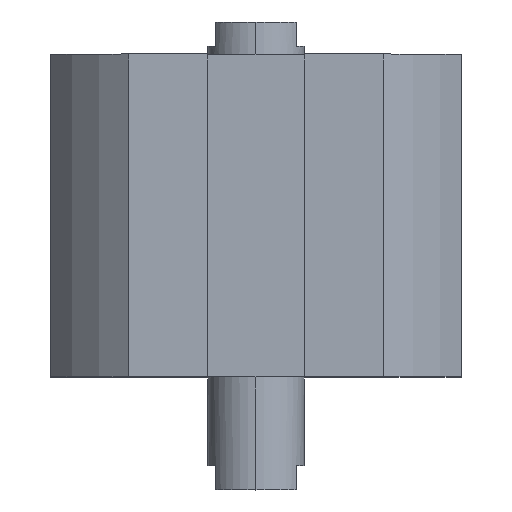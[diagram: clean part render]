
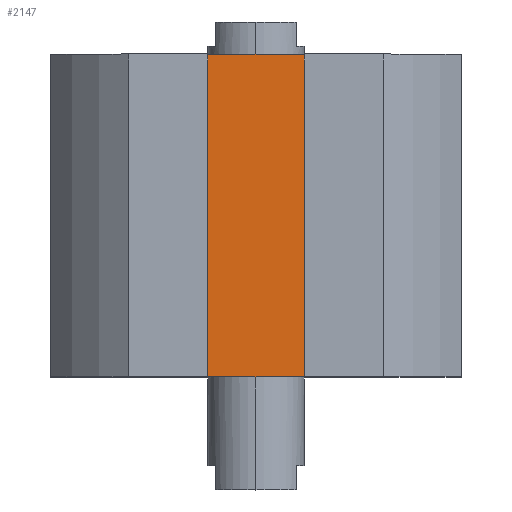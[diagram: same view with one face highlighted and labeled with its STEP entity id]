
A CAD part, top view. The second image highlights one B-rep face of the part: STEP entity #2147.
In plain terms, the highlighted planar face has unit normal (0, 0, 1).
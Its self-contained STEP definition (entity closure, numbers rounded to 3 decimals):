
#7 = CARTESIAN_POINT ( 'NONE',  ( 7.7, -40., 17. ) ) ;
#340 = DIRECTION ( 'NONE',  ( 0., 1., 0. ) ) ;
#562 = VERTEX_POINT ( 'NONE', #944 ) ;
#679 = PLANE ( 'NONE',  #2195 ) ;
#718 = VERTEX_POINT ( 'NONE', #1889 ) ;
#777 = CARTESIAN_POINT ( 'NONE',  ( -7.7, -40., 17. ) ) ;
#944 = CARTESIAN_POINT ( 'NONE',  ( 7.7, 0., 17. ) ) ;
#1082 = CARTESIAN_POINT ( 'NONE',  ( 0., 0., 17. ) ) ;
#1122 = FACE_OUTER_BOUND ( 'NONE', #2667, .T. ) ;
#1184 = DIRECTION ( 'NONE',  ( 1., 0., 0. ) ) ;
#1432 = DIRECTION ( 'NONE',  ( 1., 0., 0. ) ) ;
#1444 = LINE ( 'NONE', #777, #1739 ) ;
#1533 = ORIENTED_EDGE ( 'NONE', *, *, #2560, .T. ) ;
#1618 = CARTESIAN_POINT ( 'NONE',  ( 0., -40., 17. ) ) ;
#1653 = ORIENTED_EDGE ( 'NONE', *, *, #4027, .F. ) ;
#1739 = VECTOR ( 'NONE', #2013, 1000. ) ;
#1801 = VERTEX_POINT ( 'NONE', #2313 ) ;
#1857 = EDGE_CURVE ( 'NONE', #2433, #562, #2527, .T. ) ;
#1889 = CARTESIAN_POINT ( 'NONE',  ( 7.7, -40., 17. ) ) ;
#2013 = DIRECTION ( 'NONE',  ( 0., 1., 0. ) ) ;
#2147 = ADVANCED_FACE ( 'NONE', ( #1122 ), #679, .T. ) ;
#2165 = ORIENTED_EDGE ( 'NONE', *, *, #1857, .F. ) ;
#2186 = DIRECTION ( 'NONE',  ( 0., 0., 1. ) ) ;
#2195 = AXIS2_PLACEMENT_3D ( 'NONE', #1618, #2186, #3129 ) ;
#2234 = VECTOR ( 'NONE', #1184, 1000. ) ;
#2313 = CARTESIAN_POINT ( 'NONE',  ( -7.7, -40., 17. ) ) ;
#2318 = VECTOR ( 'NONE', #340, 1000. ) ;
#2433 = VERTEX_POINT ( 'NONE', #2935 ) ;
#2527 = LINE ( 'NONE', #1082, #3153 ) ;
#2560 = EDGE_CURVE ( 'NONE', #1801, #718, #3049, .T. ) ;
#2667 = EDGE_LOOP ( 'NONE', ( #2165, #1653, #1533, #3786 ) ) ;
#2712 = CARTESIAN_POINT ( 'NONE',  ( 0., -40., 17. ) ) ;
#2935 = CARTESIAN_POINT ( 'NONE',  ( -7.7, 0., 17. ) ) ;
#3049 = LINE ( 'NONE', #2712, #2234 ) ;
#3129 = DIRECTION ( 'NONE',  ( 1., 0., 0. ) ) ;
#3138 = LINE ( 'NONE', #7, #2318 ) ;
#3153 = VECTOR ( 'NONE', #1432, 1000. ) ;
#3757 = EDGE_CURVE ( 'NONE', #718, #562, #3138, .T. ) ;
#3786 = ORIENTED_EDGE ( 'NONE', *, *, #3757, .T. ) ;
#4027 = EDGE_CURVE ( 'NONE', #1801, #2433, #1444, .T. ) ;
